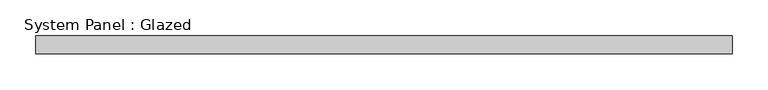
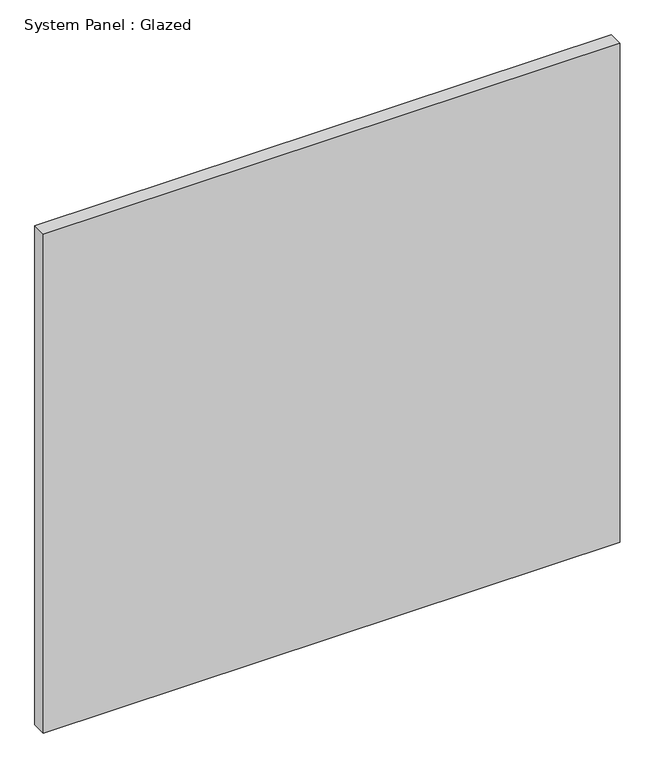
"""IFC4 building model written with IfcOpenShell, lengths in millimetres: plate geometry, System Panel : Glazed."""

from ifc_helpers import new_model, si_unit, origin, origin_with_axes, place, context, project, spatial, polyline, outline, extrude, source, transform, mapped, element, save


def system_panel_glazed_e81f12e8(model_context):
    return source(origin(), model_context, "Body", "SweptSolid", [
        extrude(outline(polyline([(485.7510959, 24.5), (-485.7510959, 24.5), (-485.7510959, 49.5), (485.7510959, 49.5), (485.7510959, 24.5)])), origin_with_axes(), (0.0, 0.0, 1.0), 888.2560116),
    ])


if __name__ == "__main__":
    model = new_model("IFC4")
    model_context = context("Model", 3, world=origin())
    ifc_project = project(units=[si_unit("LENGTHUNIT", "METRE", prefix="MILLI")], contexts=[model_context])
    site = spatial("IfcSite", under=ifc_project)
    building = spatial("IfcBuilding", under=site)
    placement = place(None, origin())
    system_panel_glazed_shape = system_panel_glazed_e81f12e8(model_context)
    element("IfcPlate", 1, ObjectType="System Panel : Glazed", at=placement, inside=building, context=model_context, shape_type="MappedRepresentation", body=[
        mapped(system_panel_glazed_shape, transform((0.0, 0.0, 0.0), x_axis=(1.0, 0.0, 0.0), y_axis=(0.0, 1.0, 0.0), z_axis=(0.0, 0.0, 1.0))),
    ])
    save(model, "model.ifc")
